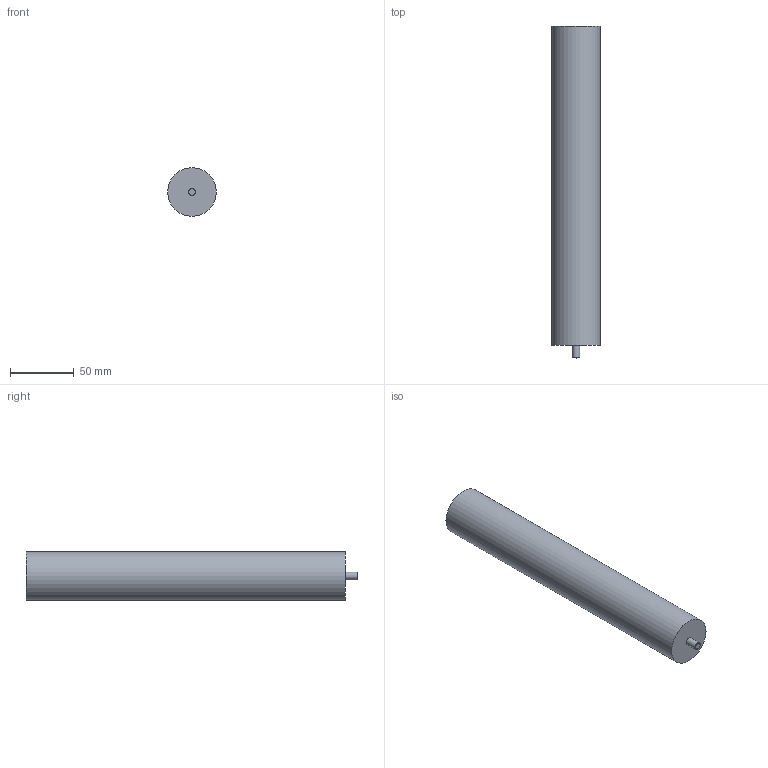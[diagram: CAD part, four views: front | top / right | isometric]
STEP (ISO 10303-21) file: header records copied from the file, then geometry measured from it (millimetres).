
FILE_DESCRIPTION (( 'STEP AP214' ), '1' );
FILE_NAME ('Bottom_盓傅裝.STEP', '2026-10-22T13:12:38', ( '' ), ( '' ), 'SwSTEP 2.0', 'SolidWorks 2022', '' );
FILE_SCHEMA (( 'AUTOMOTIVE_DESIGN' ));
Length unit declared in the file: millimetre
Products named in the file (1): Bottom_盓傅裝
Bounding box: 38 x 260 x 38 mm (x, y, z)
Volume: 283406.2 mm3; surface area: 32612.8 mm2
Topology: 1 solids, 1 shells, 8 faces, 13 edges, 8 vertices
Faces by surface type: cylinder 3, plane 3, cone 2
Full cylindrical faces by diameter (mm): 5 x1, 6 x1, 38 x1
Entity records: 210 total; most frequent: DIRECTION 32, CARTESIAN_POINT 23, AXIS2_PLACEMENT_3D 16, EDGE_LOOP 14, ORIENTED_EDGE 14, FACE_OUTER_BOUND 11, ADVANCED_FACE 8, EDGE_CURVE 7
